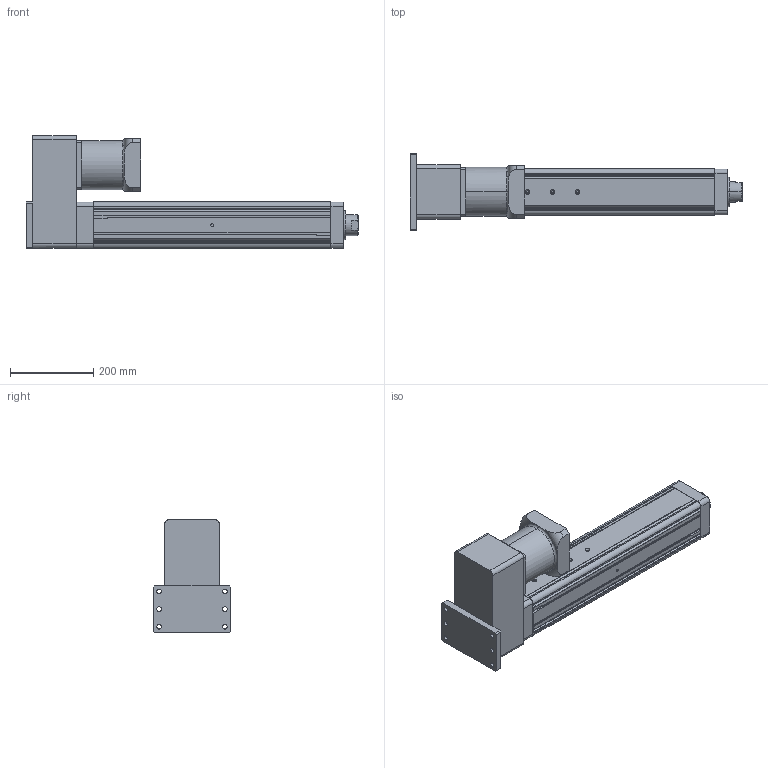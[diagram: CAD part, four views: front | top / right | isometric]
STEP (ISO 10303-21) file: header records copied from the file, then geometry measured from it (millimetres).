
FILE_DESCRIPTION (( 'STEP AP203' ), '1' );
FILE_NAME ('YRJ110-L400-H4K2.STEP', '2020-01-06T01:50:02', ( 'User' ), ( 'China' ), 'SwSTEP 2.0', 'SolidWorks 2016', '' );
FILE_SCHEMA (( 'CONFIG_CONTROL_DESIGN' ));
Length unit declared in the file: millimetre
Products named in the file (8): YRJ110-L400-H4K2; 095-100俴最倰第; H5-110-1; 萇儂碟-110; H3-110-2; H4-110; 120遺1500W珨撰熬厒儂; K2-110
Assembly tree (7 placements, depth 2):
  YRJ110-L400-H4K2
    095-100俴最倰第
    H5-110-1
    萇儂碟-110
    H3-110-2
    H4-110
    120遺1500W珨撰熬厒儂
    K2-110
Bounding box: 797 x 185 x 271 mm (x, y, z)
Volume: 9032353.9 mm3; surface area: 915967.4 mm2
Topology: 7 solids, 7 shells, 320 faces, 865 edges, 553 vertices
Faces by surface type: plane 160, cylinder 122, cone 29, torus 5, bspline 4
Entity records: 11223 total; most frequent: CARTESIAN_POINT 2196, DIRECTION 1739, ORIENTED_EDGE 1698, EDGE_CURVE 849, AXIS2_PLACEMENT_3D 602, VERTEX_POINT 553, VECTOR 535, LINE 535
